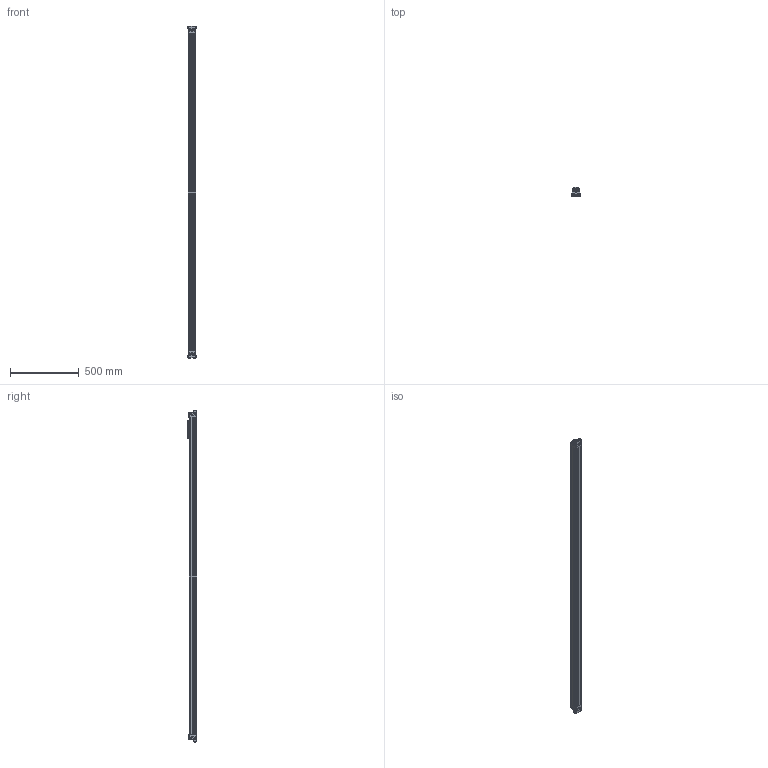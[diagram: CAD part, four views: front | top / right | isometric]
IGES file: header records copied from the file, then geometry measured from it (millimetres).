
Start section: SolidWorks IGES file using analytic representation for surfaces
Global section: file name: N:\Temp\MXP32N_NP_SK84.000_MXP-495387-1.igs; native system: SolidWorks 2024; preprocessor: SolidWorks 2024; author: MB; date: 250819.114100; units: inch
Bounding box: 60 x 67.79 x 2421.3 mm (x, y, z)
Surface area: 1048685.5 mm2 (no closed solid volume)
Topology: 0 solids, 0 shells, 1014 faces, 11612 edges, 11428 vertices
Faces by surface type: bspline 570, revolution 444
